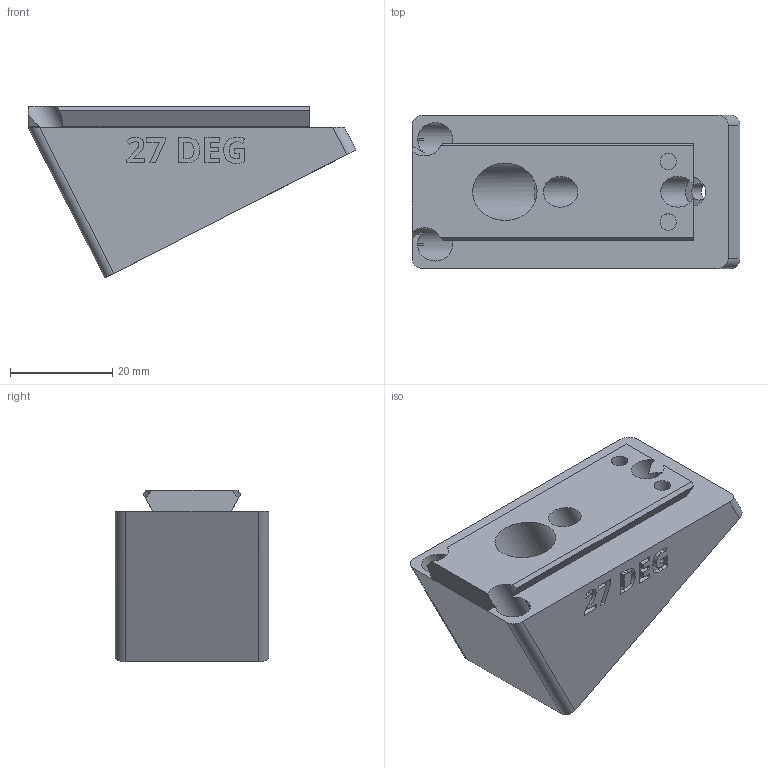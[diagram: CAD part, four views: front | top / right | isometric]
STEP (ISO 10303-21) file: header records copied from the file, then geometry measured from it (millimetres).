
FILE_DESCRIPTION(/* description */ ('STEP AP242 Edition 2','CAx-IF Rec.Pracs.---Representation and Presentation of Product Manufacturing Information (PMI)---4.0---2014-10-13','CAx-IF Rec.Pracs.---3D Tessellated Geometry---0.4---2014-09-14','2;1','CAx-IF Rec.Pracs.---User Defined Attributes---1.5---2016-08-15'),/* implementation_level */ '2;1');
FILE_NAME(/* name */ 'Camera Wedges - CAMERA MOUNTING WEDGE, POS, 27 DEG',/* time_stamp */ '2026-07-08T20:39:08Z',/* author */ (''),/* organization */ (''),/* preprocessor_version */ 'ST-DEVELOPER v20',/* originating_system */ 'ONSHAPE BY PTC INC, 1.217',/* authorisation */ ' ');
FILE_SCHEMA (('AP242_MANAGED_MODEL_BASED_3D_ENGINEERING_MIM_LF { 1 0 10303 442 3 1 4 }'));
Length unit declared in the file: metre
Products named in the file (1): CAMERA MOUNTING WEDGE, POS, 27 DEG
Bounding box: 64 x 30 x 33.52 mm (x, y, z)
Volume: 29070.5 mm3; surface area: 10366.9 mm2
Topology: 1 solids, 1 shells, 236 faces, 651 edges, 434 vertices
Faces by surface type: plane 140, cylinder 52, bspline 44
Full cylindrical faces by diameter (mm): 3.2 x4, 6 x2, 6.4 x1, 11.2 x1
Entity records: 7625 total; most frequent: CARTESIAN_POINT 1792, ORIENTED_EDGE 1280, DIRECTION 1057, EDGE_CURVE 640, LINE 433, VECTOR 433, VERTEX_POINT 431, AXIS2_PLACEMENT_3D 312
